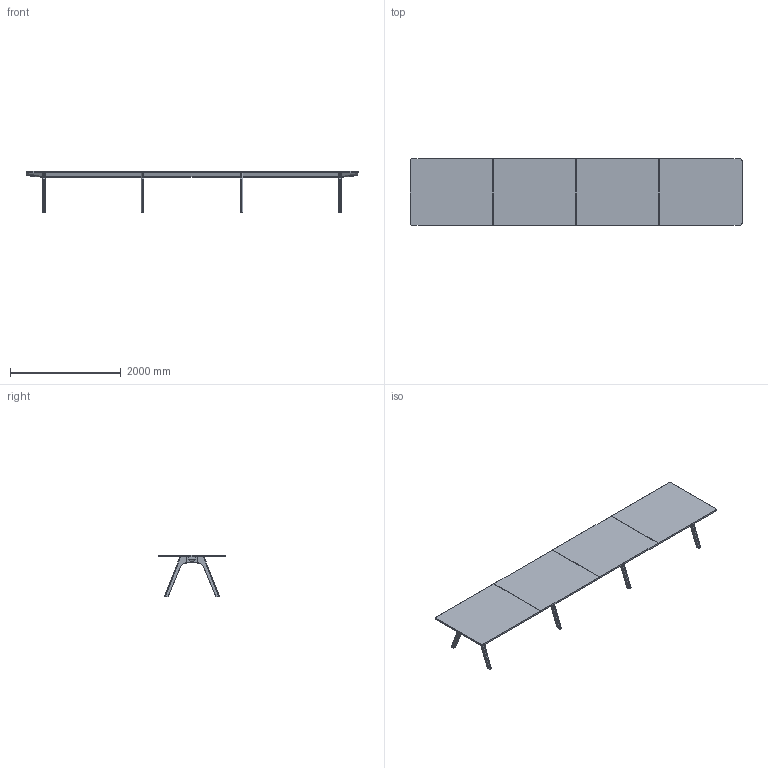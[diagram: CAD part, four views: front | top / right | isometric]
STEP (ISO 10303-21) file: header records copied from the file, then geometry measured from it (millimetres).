
FILE_DESCRIPTION( ('This file contains a STEP AP42 implementation' ,'as created by ZW3D STEP Interface translator.') ,'2;1' );
FILE_NAME( 'CHEVRON-TABLE REUNION XXL-600x120.stp' ,'24 913.1653 0', (''), ('ZWCAD Software Co.'), 'Version 1.0', 'ZW3D to STEP translator', '' );
FILE_SCHEMA(('AUTOMOTIVE_DESIGN { 1 0 10303 214 1 1 1 1 }'));
Length unit declared in the file: millimetre
Products named in the file (2): 0; CHEVRON - TABLE REUNION XXL_6000 x 1200
Bounding box: 6000 x 1200 x 751 mm (x, y, z)
Volume: 279865336.2 mm3; surface area: 33884048.8 mm2
Topology: 25 solids, 25 shells, 343 faces, 781 edges, 488 vertices
Faces by surface type: plane 261, cylinder 38, bspline 28, cone 16
Entity records: 12295 total; most frequent: CARTESIAN_POINT 4281, ORIENTED_EDGE 1562, DIRECTION 1449, EDGE_CURVE 781, VECTOR 665, LINE 665, VERTEX_POINT 488, AXIS2_PLACEMENT_3D 392
